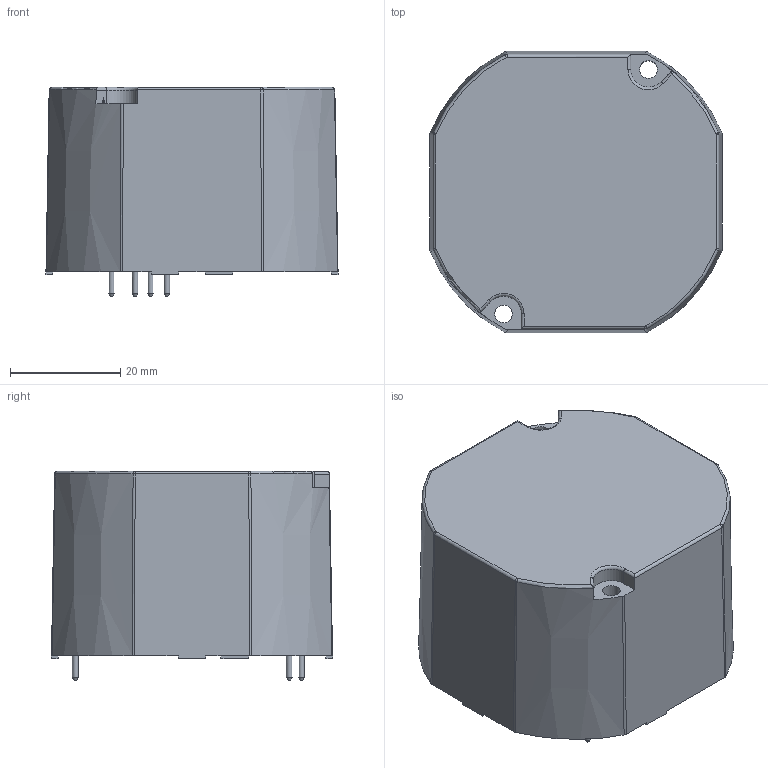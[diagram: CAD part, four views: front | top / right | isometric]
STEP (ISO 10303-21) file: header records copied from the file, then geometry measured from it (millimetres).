
FILE_DESCRIPTION(/* description */ ('Unknown'),/* implementation_level */ '2;1');
FILE_NAME(/* name */ 'TMW_36-P',/* time_stamp */ '2021-07-12T12:45:27+01:00',/* author */ ('Unknown'),/* organization */ ('Unknown'),/* preprocessor_version */ 'ST-DEVELOPER v16.7',/* originating_system */ 'Solid Edge',/* authorisation */ 'Unknown');
FILE_SCHEMA (('AUTOMOTIVE_DESIGN {1 0 10303 214 3 1 1}'));
Length unit declared in the file: millimetre
Products named in the file (1): TMW_36-P
Bounding box: 53.02 x 51.02 x 38 mm (x, y, z)
Volume: 13169.4 mm3; surface area: 24193.6 mm2
Topology: 1 solids, 1 shells, 201 faces, 523 edges, 343 vertices
Faces by surface type: plane 102, cylinder 46, cone 29, bspline 18, torus 6
Full cylindrical faces by diameter (mm): 0.635 x4, 1.016 x12, 1.778 x4, 1.899 x2, 1.9 x2, 3.2 x2
Entity records: 7481 total; most frequent: CARTESIAN_POINT 1455, ORIENTED_EDGE 934, DIRECTION 903, EDGE_CURVE 467, AXIS2_PLACEMENT_3D 338, VERTEX_POINT 328, FACE_BOUND 271, EDGE_LOOP 267
